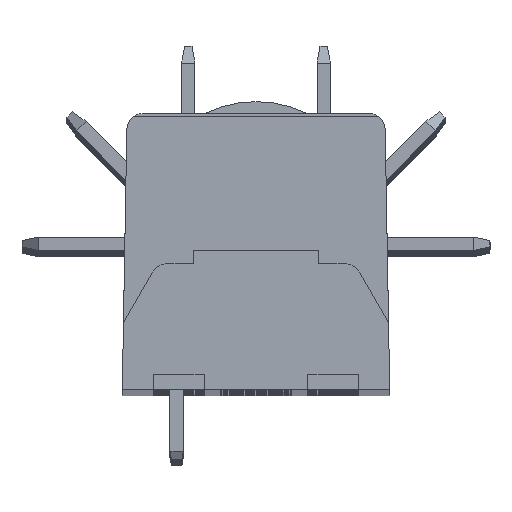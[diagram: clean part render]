
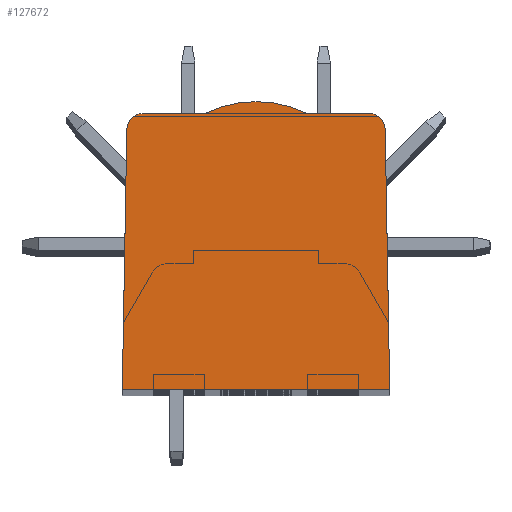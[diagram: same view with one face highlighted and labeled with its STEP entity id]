
A CAD part, top view. The second image highlights one B-rep face of the part: STEP entity #127672.
In plain terms, the highlighted planar face has unit normal (0, 0, 1).
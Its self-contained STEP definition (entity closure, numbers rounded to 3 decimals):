
#3237 = FACE_OUTER_BOUND ( 'NONE', #22001, .T. ) ;
#3415 = CARTESIAN_POINT ( 'NONE',  ( -18.346, -16.788, 0. ) ) ;
#3866 = DIRECTION ( 'NONE',  ( 0., 0., 1. ) ) ;
#8314 = CARTESIAN_POINT ( 'NONE',  ( -32.805, -15.806, 0. ) ) ;
#10127 = DIRECTION ( 'NONE',  ( -1., 0., 0. ) ) ;
#13009 = LINE ( 'NONE', #60169, #127501 ) ;
#13479 = VERTEX_POINT ( 'NONE', #91085 ) ;
#16128 = ORIENTED_EDGE ( 'NONE', *, *, #98635, .F. ) ;
#16619 = ORIENTED_EDGE ( 'NONE', *, *, #74017, .T. ) ;
#18658 = VERTEX_POINT ( 'NONE', #139215 ) ;
#22001 = EDGE_LOOP ( 'NONE', ( #40273, #16619, #126408, #82542, #16128, #104995, #80223, #136261 ) ) ;
#23875 = VECTOR ( 'NONE', #92689, 1000. ) ;
#27572 = DIRECTION ( 'NONE',  ( 0.017, 1., 0. ) ) ;
#27598 = LINE ( 'NONE', #80604, #23875 ) ;
#28294 = LINE ( 'NONE', #99443, #88317 ) ;
#28888 = EDGE_CURVE ( 'NONE', #122374, #114303, #13009, .T. ) ;
#29280 = EDGE_CURVE ( 'NONE', #122374, #154807, #69913, .T. ) ;
#30056 = CARTESIAN_POINT ( 'NONE',  ( -23.024, -15.806, 0. ) ) ;
#31728 = DIRECTION ( 'NONE',  ( 1., 0., 0. ) ) ;
#35654 = DIRECTION ( 'NONE',  ( 0., 0., 1. ) ) ;
#36520 = DIRECTION ( 'NONE',  ( 0.017, -1., 0. ) ) ;
#38933 = VERTEX_POINT ( 'NONE', #67124 ) ;
#40273 = ORIENTED_EDGE ( 'NONE', *, *, #52243, .T. ) ;
#41160 = CARTESIAN_POINT ( 'NONE',  ( -19.346, -15.806, 0. ) ) ;
#44173 = CARTESIAN_POINT ( 'NONE',  ( -32.805, -16.806, 0. ) ) ;
#45663 = CARTESIAN_POINT ( 'NONE',  ( -26.076, -15.806, 0. ) ) ;
#46222 = VERTEX_POINT ( 'NONE', #30056 ) ;
#49821 = LINE ( 'NONE', #147986, #91039 ) ;
#50666 = AXIS2_PLACEMENT_3D ( 'NONE', #99213, #3866, #51463 ) ;
#51463 = DIRECTION ( 'NONE',  ( 1., 0., 0. ) ) ;
#52243 = EDGE_CURVE ( 'NONE', #154807, #46222, #27598, .T. ) ;
#54243 = AXIS2_PLACEMENT_3D ( 'NONE', #44173, #81392, #56258 ) ;
#56258 = DIRECTION ( 'NONE',  ( 1., 0., 0. ) ) ;
#60169 = CARTESIAN_POINT ( 'NONE',  ( -18.211, -24.547, 0. ) ) ;
#67025 = CARTESIAN_POINT ( 'NONE',  ( -18.076, -32.306, 0. ) ) ;
#67124 = CARTESIAN_POINT ( 'NONE',  ( -33.805, -16.788, 0. ) ) ;
#69913 = CIRCLE ( 'NONE', #97890, 1. ) ;
#74017 = EDGE_CURVE ( 'NONE', #46222, #18658, #118574, .T. ) ;
#76698 = EDGE_CURVE ( 'NONE', #13479, #114303, #49821, .T. ) ;
#77287 = DIRECTION ( 'NONE',  ( 1., 0., 0. ) ) ;
#80223 = ORIENTED_EDGE ( 'NONE', *, *, #28888, .F. ) ;
#80604 = CARTESIAN_POINT ( 'NONE',  ( -26.076, -15.806, 0. ) ) ;
#81392 = DIRECTION ( 'NONE',  ( 0., 0., 1. ) ) ;
#82542 = ORIENTED_EDGE ( 'NONE', *, *, #116616, .T. ) ;
#83785 = AXIS2_PLACEMENT_3D ( 'NONE', #118030, #35654, #131554 ) ;
#88317 = VECTOR ( 'NONE', #27572, 1000. ) ;
#91039 = VECTOR ( 'NONE', #77287, 1000. ) ;
#91085 = CARTESIAN_POINT ( 'NONE',  ( -34.076, -32.306, 0. ) ) ;
#92689 = DIRECTION ( 'NONE',  ( -1., 0., 0. ) ) ;
#97890 = AXIS2_PLACEMENT_3D ( 'NONE', #151593, #128617, #31728 ) ;
#98635 = EDGE_CURVE ( 'NONE', #13479, #38933, #28294, .T. ) ;
#99213 = CARTESIAN_POINT ( 'NONE',  ( -26.076, -22.106, 0. ) ) ;
#99443 = CARTESIAN_POINT ( 'NONE',  ( -33.94, -24.547, 0. ) ) ;
#100604 = LINE ( 'NONE', #45663, #124737 ) ;
#104995 = ORIENTED_EDGE ( 'NONE', *, *, #76698, .T. ) ;
#107052 = PLANE ( 'NONE',  #83785 ) ;
#110515 = VERTEX_POINT ( 'NONE', #8314 ) ;
#114303 = VERTEX_POINT ( 'NONE', #67025 ) ;
#116616 = EDGE_CURVE ( 'NONE', #110515, #38933, #133770, .T. ) ;
#118030 = CARTESIAN_POINT ( 'NONE',  ( -34.172, -32.306, 0. ) ) ;
#118574 = CIRCLE ( 'NONE', #50666, 7. ) ;
#122374 = VERTEX_POINT ( 'NONE', #3415 ) ;
#124737 = VECTOR ( 'NONE', #10127, 1000. ) ;
#126408 = ORIENTED_EDGE ( 'NONE', *, *, #138114, .T. ) ;
#127501 = VECTOR ( 'NONE', #36520, 1000. ) ;
#127672 = ADVANCED_FACE ( 'NONE', ( #3237 ), #107052, .T. ) ;
#128617 = DIRECTION ( 'NONE',  ( 0., 0., 1. ) ) ;
#131554 = DIRECTION ( 'NONE',  ( 1., 0., 0. ) ) ;
#133770 = CIRCLE ( 'NONE', #54243, 1. ) ;
#136261 = ORIENTED_EDGE ( 'NONE', *, *, #29280, .T. ) ;
#138114 = EDGE_CURVE ( 'NONE', #18658, #110515, #100604, .T. ) ;
#139215 = CARTESIAN_POINT ( 'NONE',  ( -29.127, -15.806, 0. ) ) ;
#147986 = CARTESIAN_POINT ( 'NONE',  ( -34.172, -32.306, 0. ) ) ;
#151593 = CARTESIAN_POINT ( 'NONE',  ( -19.346, -16.806, 0. ) ) ;
#154807 = VERTEX_POINT ( 'NONE', #41160 ) ;
